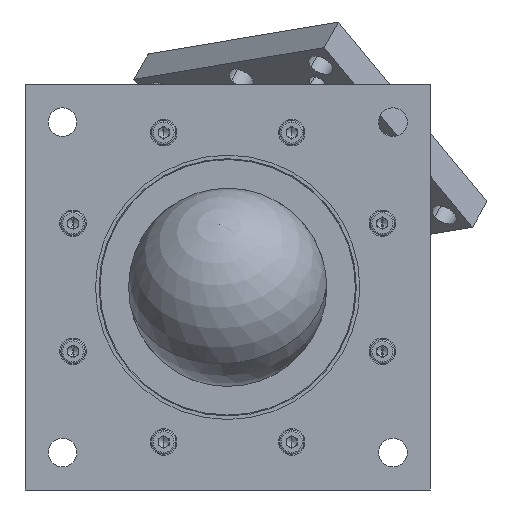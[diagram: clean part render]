
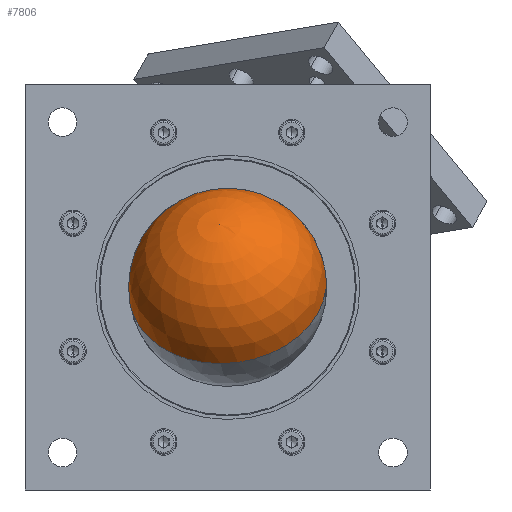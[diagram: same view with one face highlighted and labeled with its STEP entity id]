
A CAD part, front view. The second image highlights one B-rep face of the part: STEP entity #7806.
In plain terms, the highlighted spherical face has radius 22.5 mm.
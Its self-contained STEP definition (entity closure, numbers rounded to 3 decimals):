
#294 = AXIS2_PLACEMENT_3D ( 'NONE', #4058, #4066, #4067 ) ;
#2932 = CARTESIAN_POINT ( 'NONE',  ( -1.335, 62.959, 0. ) ) ;
#2933 = DIRECTION ( 'NONE',  ( 0.088, 0.765, -0.638 ) ) ;
#2934 = DIRECTION ( 'NONE',  ( 0., 0.641, 0.768 ) ) ;
#3002 = CARTESIAN_POINT ( 'NONE',  ( -1.335, 62.959, 0. ) ) ;
#3003 = DIRECTION ( 'NONE',  ( -0.088, -0.765, 0.638 ) ) ;
#3004 = DIRECTION ( 'NONE',  ( 0., -0.641, -0.768 ) ) ;
#3045 = CARTESIAN_POINT ( 'NONE',  ( 6.427, 73.566, 13.775 ) ) ;
#3046 = DIRECTION ( 'NONE',  ( -0.408, -0.557, -0.723 ) ) ;
#3047 = DIRECTION ( 'NONE',  ( -0.909, 0.324, 0.263 ) ) ;
#3760 = CARTESIAN_POINT ( 'NONE',  ( -4.469, 77.445, 16.929 ) ) ;
#4058 = CARTESIAN_POINT ( 'NONE',  ( -1.335, 62.959, 0. ) ) ;
#4066 = DIRECTION ( 'NONE',  ( -0.088, -0.765, 0.638 ) ) ;
#4067 = DIRECTION ( 'NONE',  ( 0.909, -0.324, -0.263 ) ) ;
#4733 = CARTESIAN_POINT ( 'NONE',  ( 17.324, 69.688, 10.621 ) ) ;
#5389 = VERTEX_POINT ( 'NONE', #4733 ) ;
#6597 = AXIS2_PLACEMENT_3D ( 'NONE', #2932, #2933, #2934 ) ;
#6610 = AXIS2_PLACEMENT_3D ( 'NONE', #3002, #3003, #3004 ) ;
#6619 = AXIS2_PLACEMENT_3D ( 'NONE', #3045, #3046, #3047 ) ;
#7481 = ORIENTED_EDGE ( 'NONE', *, *, #9206, .F. ) ;
#7551 = ORIENTED_EDGE ( 'NONE', *, *, #9233, .T. ) ;
#7569 = ORIENTED_EDGE ( 'NONE', *, *, #9252, .T. ) ;
#7806 = ADVANCED_FACE ( 'NONE', ( #10892 ), #10896, .T. ) ;
#8268 = VERTEX_POINT ( 'NONE', #3760 ) ;
#9049 = CARTESIAN_POINT ( 'NONE',  ( -10.508, 50.424, -16.278 ) ) ;
#9206 = EDGE_CURVE ( 'NONE', #5389, #15848, #10305, .T. ) ;
#9233 = EDGE_CURVE ( 'NONE', #8268, #15848, #10340, .T. ) ;
#9252 = EDGE_CURVE ( 'NONE', #5389, #8268, #10375, .T. ) ;
#9499 = EDGE_LOOP ( 'NONE', ( #7569, #7551, #7481 ) ) ;
#10305 = CIRCLE ( 'NONE', #6597, 22.5 ) ;
#10340 = CIRCLE ( 'NONE', #6610, 22.5 ) ;
#10375 = CIRCLE ( 'NONE', #6619, 11.989 ) ;
#10892 = FACE_OUTER_BOUND ( 'NONE', #9499, .T. ) ;
#10896 = SPHERICAL_SURFACE ( 'NONE', #294, 22.5 ) ;
#15848 = VERTEX_POINT ( 'NONE', #9049 ) ;
